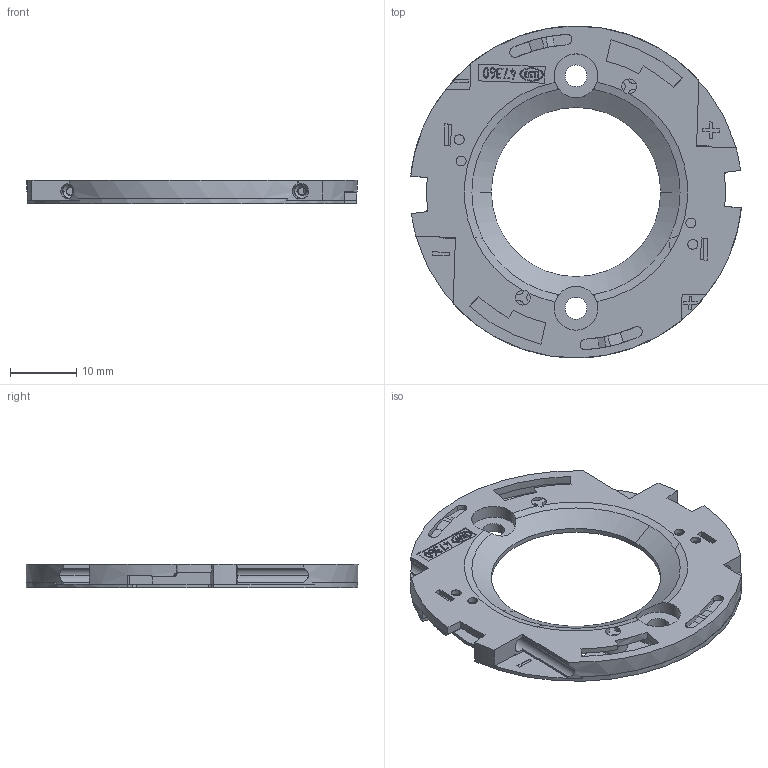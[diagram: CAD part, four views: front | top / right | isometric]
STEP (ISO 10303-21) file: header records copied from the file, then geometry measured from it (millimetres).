
FILE_DESCRIPTION(('CAx-IF Rec.Pracs.---Model Styling and Organization---1.2---2011-12-15','CAx-IF Rec.Pracs.---Geometric and Assembly Validation Properties---4.1---2014-06-16','CAx-IF Rec.Pracs.---PMI Polyline Presentation---2.0---2013-05-24'),'2;1');
FILE_NAME('01ZYR1CY04.stp','2018-03-02T08:52:54+01:00',(''),(''),'STEP Interface 4.1 Sp1 by CT CoreTechnologie','3D_Evolution4.1 Sp1 by CT CoreTechnologie','');
FILE_SCHEMA(('AUTOMOTIVE_DESIGN { 1 0 10303 214 1 1 1 1 }'));
Length unit declared in the file: millimetre
Products named in the file (3): 01ZYR1CY04; 01Z-R1D-02; 01Z-R1E-02
Assembly tree (2 placements, depth 2):
  01ZYR1CY04
    01Z-R1D-02
    01Z-R1E-02
Bounding box: 49.77 x 50 x 3.5 mm (x, y, z)
Volume: 2760.7 mm3; surface area: 6665.1 mm2
Topology: 4 solids, 4 shells, 695 faces, 1909 edges, 1269 vertices
Faces by surface type: plane 467, cylinder 166, bspline 62
Entity records: 56077 total; most frequent: CARTESIAN_POINT 6931, PROPERTY_DEFINITION 4397, ORIENTED_EDGE 3818, DIRECTION 3588, SHAPE_REPRESENTATION 2200, REPRESENTATION 2200, GENERAL_PROPERTY 2200, PROPERTY_DEFINITION_REPRESENTATION 2200
